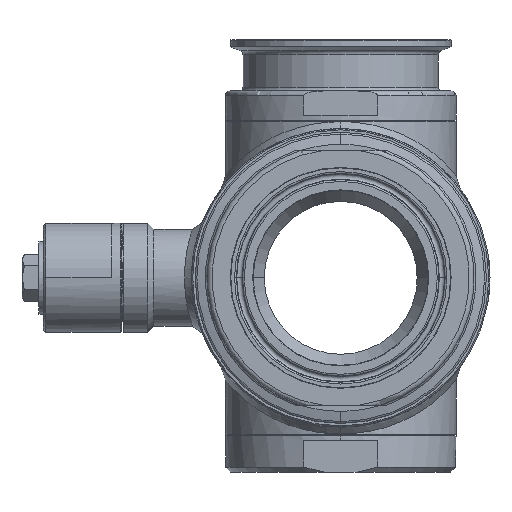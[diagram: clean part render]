
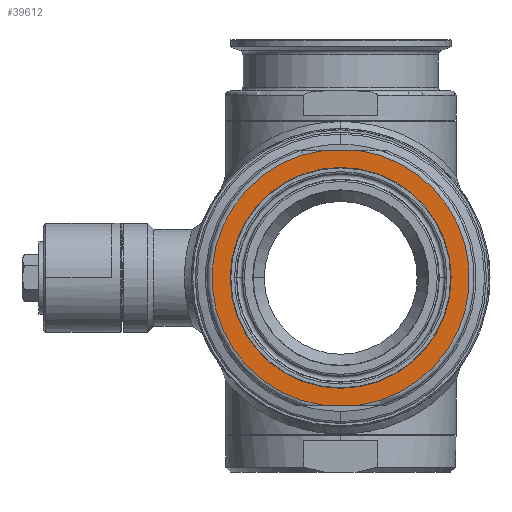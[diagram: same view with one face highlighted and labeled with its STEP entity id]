
A CAD part, left-side view. The second image highlights one B-rep face of the part: STEP entity #39612.
In plain terms, the highlighted planar face has unit normal (-1, 0, 0).
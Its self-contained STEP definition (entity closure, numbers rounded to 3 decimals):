
#3937=CARTESIAN_POINT('',(-77.,0.,0.));
#3938=DIRECTION('',(1.,0.,0.));
#3939=DIRECTION('',(0.,-0.137,0.991));
#3940=AXIS2_PLACEMENT_3D('',#3937,#3938,#3939);
#3945=DIRECTION('',(0.,-1.,0.));
#3946=VECTOR('',#3945,14.526);
#3947=CARTESIAN_POINT('',(-77.,7.263,-52.5));
#3948=LINE('',#3947,#3946);
#3952=CARTESIAN_POINT('',(-77.,0.,0.));
#3953=DIRECTION('',(1.,0.,0.));
#3954=DIRECTION('',(0.,0.137,-0.991));
#3955=AXIS2_PLACEMENT_3D('',#3952,#3953,#3954);
#3960=DIRECTION('',(0.,-1.,0.));
#3961=VECTOR('',#3960,14.526);
#3962=CARTESIAN_POINT('',(-77.,7.263,52.5));
#3963=LINE('',#3962,#3961);
#3967=CARTESIAN_POINT('',(-77.,0.,0.));
#3968=DIRECTION('',(-1.,0.,0.));
#3969=DIRECTION('',(0.,1.,0.));
#3970=AXIS2_PLACEMENT_3D('',#3967,#3968,#3969);
#3975=CARTESIAN_POINT('',(-77.,0.,0.));
#3976=DIRECTION('',(-1.,0.,0.));
#3977=DIRECTION('',(0.,-1.,0.));
#3978=AXIS2_PLACEMENT_3D('',#3975,#3976,#3977);
#4056=CARTESIAN_POINT('',(-77.,-7.263,-52.5));
#4200=CARTESIAN_POINT('',(-77.,7.263,52.5));
#35889=VERTEX_POINT('',#4056);
#35890=CARTESIAN_POINT('',(-77.,-7.263,52.5));
#35891=VERTEX_POINT('',#35890);
#35894=VERTEX_POINT('',#4200);
#35895=CARTESIAN_POINT('',(-77.,7.263,-52.5));
#35896=VERTEX_POINT('',#35895);
#35898=CARTESIAN_POINT('',(-77.,42.25,0.));
#35899=CARTESIAN_POINT('',(-77.,-42.25,0.));
#35900=VERTEX_POINT('',#35898);
#35901=VERTEX_POINT('',#35899);
#39592=CARTESIAN_POINT('',(-77.,0.,0.));
#39593=DIRECTION('',(-1.,0.,0.));
#39594=DIRECTION('',(0.,-1.,0.));
#39595=AXIS2_PLACEMENT_3D('',#39592,#39593,#39594);
#39596=PLANE('',#39595);
#39598=ORIENTED_EDGE('',*,*,#39597,.T.);
#39600=ORIENTED_EDGE('',*,*,#39599,.F.);
#39602=ORIENTED_EDGE('',*,*,#39601,.T.);
#39604=ORIENTED_EDGE('',*,*,#39603,.T.);
#39605=EDGE_LOOP('',(#39598,#39600,#39602,#39604));
#39606=FACE_OUTER_BOUND('',#39605,.F.);
#39607=ORIENTED_EDGE('',*,*,#39582,.T.);
#39609=ORIENTED_EDGE('',*,*,#39608,.T.);
#39610=EDGE_LOOP('',(#39607,#39609));
#39611=FACE_BOUND('',#39610,.F.);
#39612=ADVANCED_FACE('',(#39606,#39611),#39596,.T.);
#3941=CIRCLE('',#3940,53.);
#3956=CIRCLE('',#3955,53.);
#3971=CIRCLE('',#3970,42.25);
#3979=CIRCLE('',#3978,42.25);
#39582=EDGE_CURVE('',#35900,#35901,#3971,.T.);
#39597=EDGE_CURVE('',#35891,#35889,#3941,.T.);
#39599=EDGE_CURVE('',#35896,#35889,#3948,.T.);
#39601=EDGE_CURVE('',#35896,#35894,#3956,.T.);
#39603=EDGE_CURVE('',#35894,#35891,#3963,.T.);
#39608=EDGE_CURVE('',#35901,#35900,#3979,.T.);
